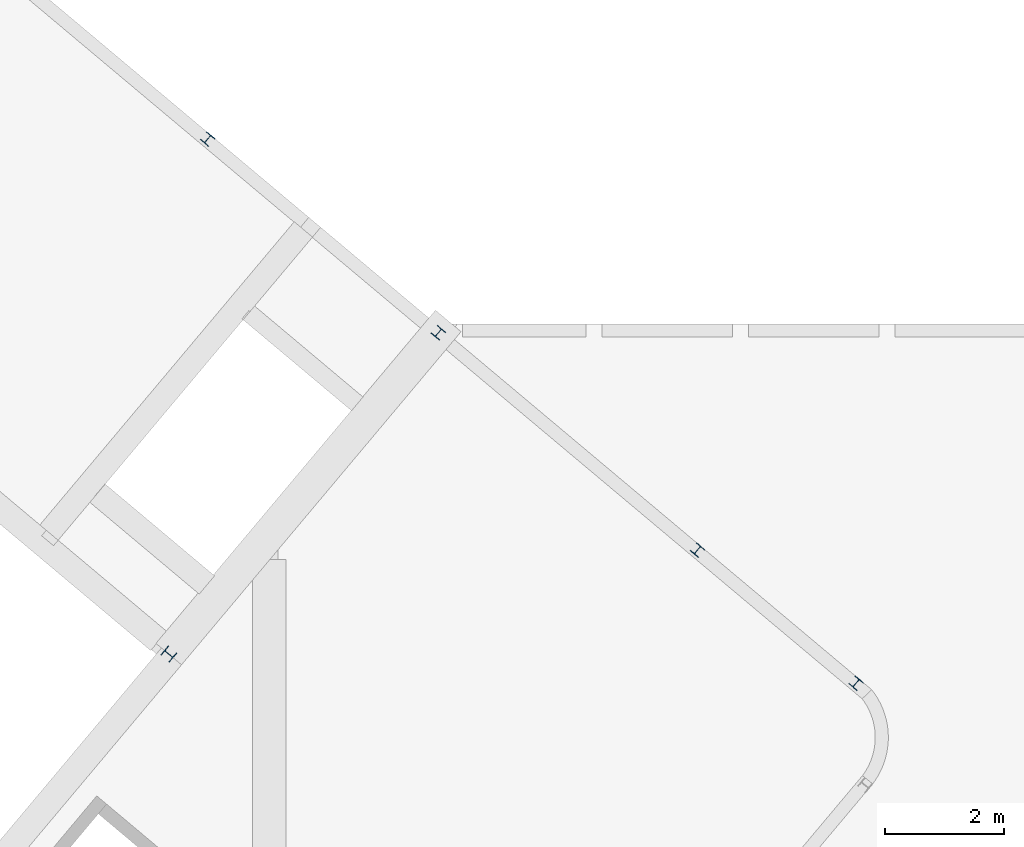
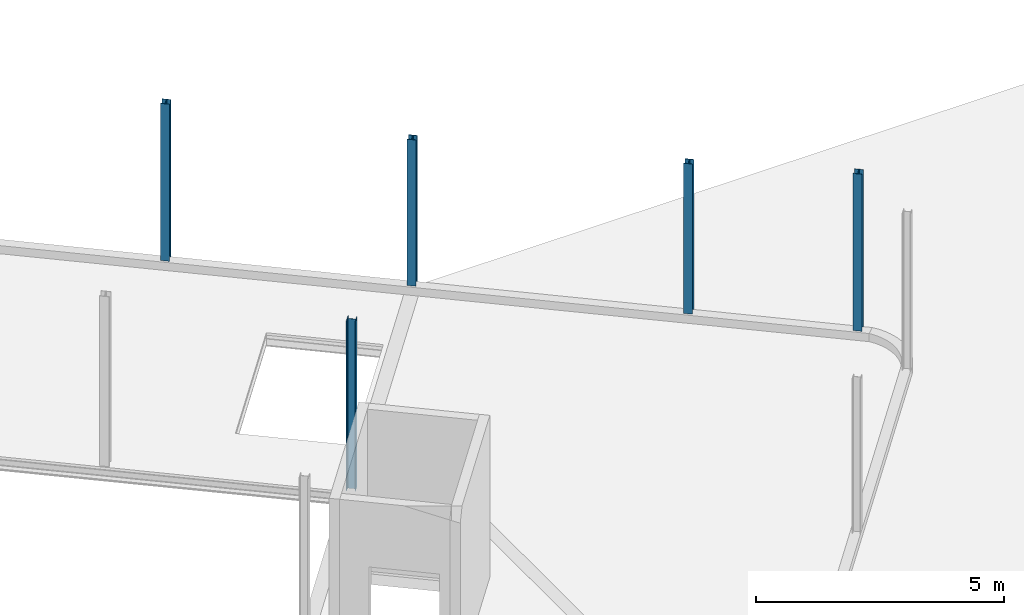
# One storey, part 4 of 11: 5 columns.
"""IFC2X3 building model written with IfcOpenShell, lengths in millimetres."""

import ifcopenshell
import ifcopenshell.guid

model = None  # the IFC model being written
_history = None  # IfcOwnerHistory: only IFC2X3 demands one
_inside = {}  # id of a spatial element -> (the spatial element, [elements in it])
_under = {}  # id of a project, library or spatial element -> (it, [spatial elements below it])
_declared = {}  # id of a project -> (the project, [libraries it declares])
_typed = {}  # id of a type object -> (the type object, [elements of that type])
_made_of = {}  # id of a material, layer set ... -> (it, [elements and type objects made of it])


def new_model(schema):
    """Start an empty IFC model of exactly this schema.

    Asked for "IFC4X3", IfcOpenShell would pick the latest addendum, in which some entities
    have other attributes; the version numbers below select the first issue.
    IFC2X3 requires an IfcOwnerHistory on every rooted entity: one is made here for all.
    """
    global model, _history
    if schema == "IFC4X3":
        model = ifcopenshell.file(schema_version=(4, 3, 0, 0))
    else:
        model = ifcopenshell.file(schema=schema)
    _inside.clear()
    _under.clear()
    _declared.clear()
    _typed.clear()
    _made_of.clear()
    _history = None
    if model.schema == "IFC2X3":
        org = make("IfcOrganization", Name="unknown")
        user = make(
            "IfcPersonAndOrganization",
            ThePerson=make("IfcPerson", FamilyName="unknown"),
            TheOrganization=org,
        )
        app = make(
            "IfcApplication",
            ApplicationDeveloper=org,
            Version="unknown",
            ApplicationFullName="unknown",
            ApplicationIdentifier="unknown",
        )
        _history = make(
            "IfcOwnerHistory",
            OwningUser=user,
            OwningApplication=app,
            ChangeAction="ADDED",
            CreationDate=0,
        )
    return model


def make(cls, **values):
    """One entity of the class cls with the attributes given. An attribute that is None is left unset."""
    return model.create_entity(
        cls, **{name: value for name, value in values.items() if value is not None}
    )


def entity(cls, *values):
    """Any entity or typed value of the class cls, its attributes in the order of the schema. None: left unset."""
    e = model.create_entity(cls)
    for i, value in enumerate(values):
        if value is not None:
            e[i] = value
    return e


def rooted(cls, **values):
    """An entity with a GlobalId (a new one), such as an element, a storey or a relation."""
    return make(cls, GlobalId=ifcopenshell.guid.new(), OwnerHistory=_history, **values)


def si_unit(unit_type, name, prefix=None):
    """IfcSIUnit, for example si_unit("LENGTHUNIT", "METRE", prefix="MILLI")."""
    return make("IfcSIUnit", UnitType=unit_type, Prefix=prefix, Name=name)


def converted_unit(unit_type, name, factor, base, dimensions=None, offset=None):
    """IfcConversionBasedUnit, such as the inch: factor (a typed value) times the base unit."""
    return make(
        "IfcConversionBasedUnit"
        if offset is None
        else "IfcConversionBasedUnitWithOffset",
        ConversionOffset=offset,
        Dimensions=None
        if dimensions is None
        else entity("IfcDimensionalExponents", *dimensions),
        UnitType=unit_type,
        Name=name,
        ConversionFactor=make(
            "IfcMeasureWithUnit", ValueComponent=factor, UnitComponent=base
        ),
    )


def derived_unit(unit_type, elements):
    """IfcDerivedUnit: a product of units, each with its exponent."""
    return make(
        "IfcDerivedUnit",
        Elements=[
            make("IfcDerivedUnitElement", Unit=unit, Exponent=power)
            for unit, power in elements
        ],
        UnitType=unit_type,
    )


def assignment(units):
    """IfcUnitAssignment: the units of a project."""
    return None if units is None else make("IfcUnitAssignment", Units=units)


def point(xyz):
    """IfcCartesianPoint."""
    return None if xyz is None else make("IfcCartesianPoint", Coordinates=xyz)


def direction(xyz):
    """IfcDirection."""
    return None if xyz is None else make("IfcDirection", DirectionRatios=xyz)


def frame(location, z_axis=None, x_axis=None):
    """IfcAxis2Placement3D, a coordinate frame: its origin and axes. An axis left out is left unset."""
    return make(
        "IfcAxis2Placement3D",
        Location=point(location),
        Axis=direction(z_axis),
        RefDirection=direction(x_axis),
    )


def frame_2d(location, x_axis=None):
    """IfcAxis2Placement2D, a coordinate frame in the plane: its origin and x axis."""
    return make(
        "IfcAxis2Placement2D", Location=point(location), RefDirection=direction(x_axis)
    )


def origin():
    """The frame at (0, 0, 0) with its axes left unset."""
    return frame((0.0, 0.0, 0.0))


def place(relative_to, where):
    """IfcLocalPlacement: puts the frame where relative to a parent placement (None: the world)."""
    return make(
        "IfcLocalPlacement", PlacementRelTo=relative_to, RelativePlacement=where
    )


def context(
    kind, dimensions, precision=None, world=None, true_north=None, identifier=None
):
    """IfcGeometricRepresentationContext, for example the 3D "Model" context."""
    return make(
        "IfcGeometricRepresentationContext",
        ContextIdentifier=identifier,
        ContextType=kind,
        CoordinateSpaceDimension=dimensions,
        Precision=precision,
        WorldCoordinateSystem=world,
        TrueNorth=true_north,
    )


def subcontext(parent, identifier, kind, view, scale=None):
    """IfcGeometricRepresentationSubContext, for example "Body" below "Model"."""
    return make(
        "IfcGeometricRepresentationSubContext",
        ContextIdentifier=identifier,
        ContextType=kind,
        ParentContext=parent,
        TargetScale=scale,
        TargetView=view,
    )


def project(units=None, contexts=None):
    """IfcProject with its units and contexts."""
    return rooted(
        "IfcProject",
        Name="project",
        RepresentationContexts=contexts,
        UnitsInContext=assignment(units),
    )


def spatial(cls, under=None, at=None, **own):
    """A site, building, storey or space (cls), placed at a placement, below another one or the project."""
    s = rooted(cls, ObjectPlacement=at, **own)
    if under is not None:
        _under.setdefault(under.id(), (under, []))[1].append(s)
    return s


def profile(cls, at=None, kind="AREA", **sizes):
    """A parametric profile (cls). Its sizes go by their IFC names, for example OverallWidth=200.0."""
    return make(cls, ProfileType=kind, Position=at, **sizes)


def i_section(**sizes):
    """IfcIShapeProfileDef."""
    return profile("IfcIShapeProfileDef", **sizes)


def extrude(swept, where, along, depth):
    """IfcExtrudedAreaSolid: the profile swept, set in the frame where, extruded along a direction by depth."""
    return make(
        "IfcExtrudedAreaSolid",
        SweptArea=swept,
        Position=where,
        ExtrudedDirection=direction(along),
        Depth=depth,
    )


def shape(context_of_items, identifier, shape_type, items):
    """IfcShapeRepresentation: the items that make up one representation, for example the "Body"."""
    return make(
        "IfcShapeRepresentation",
        ContextOfItems=context_of_items,
        RepresentationIdentifier=identifier,
        RepresentationType=shape_type,
        Items=items,
    )


def source(mapping_origin, context_of_items, identifier, shape_type, items):
    """IfcRepresentationMap: a shape defined once, which mapped items show again and again."""
    return make(
        "IfcRepresentationMap",
        MappingOrigin=mapping_origin,
        MappedRepresentation=shape(context_of_items, identifier, shape_type, items),
    )


def transform(
    local_origin,
    x_axis=None,
    y_axis=None,
    z_axis=None,
    scale=None,
    scale2=None,
    scale3=None,
    uniform=True,
):
    """IfcCartesianTransformationOperator3D, or its non-uniform kind. x_axis, y_axis, z_axis: its Axis1, 2, 3."""
    if uniform:
        return make(
            "IfcCartesianTransformationOperator3D",
            Axis1=direction(x_axis),
            Axis2=direction(y_axis),
            LocalOrigin=point(local_origin),
            Scale=scale,
            Axis3=direction(z_axis),
        )
    return make(
        "IfcCartesianTransformationOperator3DnonUniform",
        Axis1=direction(x_axis),
        Axis2=direction(y_axis),
        LocalOrigin=point(local_origin),
        Scale=scale,
        Axis3=direction(z_axis),
        Scale2=scale2,
        Scale3=scale3,
    )


def mapped(mapping_source, mapping_target):
    """IfcMappedItem: shows the shape of a source again, moved by a transform."""
    return make(
        "IfcMappedItem", MappingSource=mapping_source, MappingTarget=mapping_target
    )


def material(Name=None, Category=None):
    """IfcMaterial."""
    return make("IfcMaterial", Name=Name, Category=Category)


def made_of(thing, what):
    """Note that an element or type object is made of a material, layer set ...; save() writes the relation."""
    if what is not None:
        _made_of.setdefault(what.id(), (what, []))[1].append(thing)
    return thing


def type_object(cls, material=None, **own):
    """A type object (cls), such as IfcWallType, which elements share."""
    return made_of(rooted(cls, **own), material)


def type_shapes(of_type, sources):
    """Give a type object the sources (RepresentationMaps) that its elements show as mapped items."""
    of_type.RepresentationMaps = sources


def element(
    cls,
    number,
    at=None,
    inside=None,
    cuts=None,
    type_object=None,
    material=None,
    context=None,
    identifier="Body",
    shape_type=None,
    held_by="IfcProductDefinitionShape",
    body=None,
    shapes=None,
    **own,
):
    """One element of the class cls, such as IfcWall. Its Tag is "e" and its number.

    at: its placement. inside: the storey or other place that contains it. cuts: it is an
    opening in that element (IfcRelVoidsElement). A single representation is given by context,
    identifier, shape_type and body (its items); several are given by shapes. held_by: the class
    of the entity that holds the representations. save() writes the other relations.
    """
    e = rooted(cls, Tag="e%d" % number, ObjectPlacement=at, **own)
    if body is not None:
        shapes = [shape(context, identifier, shape_type, body)]
    if shapes is not None:
        e.Representation = make(held_by, Representations=shapes)
    if inside is not None:
        _inside.setdefault(inside.id(), (inside, []))[1].append(e)
    if cuts is not None:
        rooted(
            "IfcRelVoidsElement", RelatingBuildingElement=cuts, RelatedOpeningElement=e
        )
    if type_object is not None:
        _typed.setdefault(type_object.id(), (type_object, []))[1].append(e)
    return made_of(e, material)


def aggregate(whole, parts):
    """IfcRelAggregates: a whole, such as a stair, and the parts it consists of."""
    return rooted("IfcRelAggregates", RelatingObject=whole, RelatedObjects=parts)


def save(model, path):
    """Write the relations noted so far, then the file.

    IfcRelAggregates (storeys below a building ...), IfcRelContainedInSpatialStructure (elements
    in a storey), IfcRelDefinesByType, IfcRelAssociatesMaterial and IfcRelDeclares: one each for
    every whole, place, type object, material and project.
    """
    for whole, parts in _under.values():
        aggregate(whole, parts)
    for where, things in _inside.values():
        rooted(
            "IfcRelContainedInSpatialStructure",
            RelatedElements=things,
            RelatingStructure=where,
        )
    for kind, things in _typed.values():
        rooted("IfcRelDefinesByType", RelatedObjects=things, RelatingType=kind)
    for what, things in _made_of.values():
        rooted("IfcRelAssociatesMaterial", RelatedObjects=things, RelatingMaterial=what)
    for by, libraries in _declared.values():
        rooted("IfcRelDeclares", RelatingContext=by, RelatedDefinitions=libraries)
    model.write(path)


model = new_model("IFC2X3")

# Units and contexts
model_context = context("Model", 3, precision=0.01, world=origin(), true_north=direction((6.123031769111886e-17, 1.0)))
body_context = subcontext(model_context, "Body", "Model", "MODEL_VIEW")
ifc_project = project(units=[si_unit("LENGTHUNIT", "METRE", prefix="MILLI"), si_unit("AREAUNIT", "SQUARE_METRE"), si_unit("VOLUMEUNIT", "CUBIC_METRE"), derived_unit("MASSDENSITYUNIT", [(si_unit("MASSUNIT", "GRAM", prefix="KILO"), 1), (si_unit("LENGTHUNIT", "METRE"), -3)]), si_unit("MASSUNIT", "GRAM", prefix="KILO"), converted_unit("PLANEANGLEUNIT", "DEGREE", entity("IfcPlaneAngleMeasure", 0.017453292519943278), si_unit("PLANEANGLEUNIT", "RADIAN"), dimensions=[0, 0, 0, 0, 0, 0, 0])], contexts=[model_context])

# Site, building, storey
site_placement = place(None, origin())
site = spatial("IfcSite", under=ifc_project, at=site_placement, Name="Default", CompositionType="ELEMENT")
building_placement = place(site_placement, origin())
building = spatial("IfcBuilding", under=site, at=building_placement, Name="AT constructie", CompositionType="ELEMENT")
storey_placement = place(building_placement, frame((0.0, 0.0, 7728.0)))
storey = spatial("IfcBuildingStorey", under=building, at=storey_placement, Name="02 tweede verdieping", CompositionType="ELEMENT", Elevation=7728.0)

# Columns
ifc_material = material(Name="h2_staal_S355")
column_type_1 = type_object("IfcColumnType", Name="kolom_gen_HEA200", PredefinedType="COLUMN", material=ifc_material)
shared_shape_1 = source(origin(), body_context, "Body", "SweptSolid", [
    extrude(i_section(OverallWidth=199.9999999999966, OverallDepth=190.00000000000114, WebThickness=6.5000000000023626, FlangeThickness=9.999999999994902, FilletRadius=18.0, at=frame_2d((-3.311129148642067e-12, -2.7782220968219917e-12), x_axis=(1.0, 0.0))), frame((39462.76846748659, 37332.628400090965, 7678.0), z_axis=(0.0, 0.0, 1.0), x_axis=(-0.6427876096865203, -0.766044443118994, 0.0)), (0.0, 0.0, 1.0), 4184.999999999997),
])
type_shapes(column_type_1, [shared_shape_1])
column_1_placement = place(storey_placement, frame((0.0, 0.0, -7728.0)))
element("IfcColumn", 1, at=column_1_placement, inside=storey, type_object=column_type_1, material=ifc_material, Name="NLRS_28_SC_TLB_kolom HEA_gen_AT:kolom_gen_HEA200", ObjectType="NLRS_28_SC_TLB_kolom HEA_gen_AT:kolom_gen_HEA200", context=body_context, shape_type="MappedRepresentation", body=[
    mapped(shared_shape_1, transform((0.0, 0.0, 0.0), scale=1.0)),
])
column_type_2 = type_object("IfcColumnType", Name="kolom_gen_HEA180", PredefinedType="COLUMN", material=ifc_material)
shared_shape_2 = source(origin(), body_context, "Body", "SweptSolid", [
    extrude(i_section(OverallWidth=180.0000000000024, OverallDepth=170.99999999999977, WebThickness=5.999999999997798, FlangeThickness=9.500000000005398, FilletRadius=15.000000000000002, at=frame_2d((-2.7853275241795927e-12, 3.311129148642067e-12), x_axis=(1.0, 0.0))), frame((40115.31718590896, 45974.48962439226, 7878.0), z_axis=(0.0, 0.0, 1.0), x_axis=(0.7660444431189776, -0.6427876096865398, 0.0)), (0.0, 0.0, 1.0), 3872.999999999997),
])
type_shapes(column_type_2, [shared_shape_2])
column_2_placement = place(storey_placement, frame((0.0, 0.0, -7728.0)))
element("IfcColumn", 2, at=column_2_placement, inside=storey, type_object=column_type_2, material=ifc_material, Name="NLRS_28_SC_TLB_kolom HEA_gen_AT:kolom_gen_HEA180", ObjectType="NLRS_28_SC_TLB_kolom HEA_gen_AT:kolom_gen_HEA180", context=body_context, shape_type="MappedRepresentation", body=[
    mapped(shared_shape_2, transform((0.0, 0.0, 0.0), scale=1.0)),
])
column_type_3 = type_object("IfcColumnType", Name="kolom_gen_HEA180", PredefinedType="COLUMN", material=ifc_material)
shared_shape_3 = source(origin(), body_context, "Body", "SweptSolid", [
    extrude(i_section(OverallWidth=180.0000000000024, OverallDepth=170.99999999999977, WebThickness=5.999999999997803, FlangeThickness=9.500000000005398, FilletRadius=15.000000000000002, at=frame_2d((2.7853275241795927e-12, -3.311129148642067e-12), x_axis=(1.0, 0.0))), frame((43987.671976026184, 42725.19841253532, 7878.0), z_axis=(0.0, 0.0, 1.0), x_axis=(0.7660444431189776, -0.6427876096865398, 0.0)), (0.0, 0.0, 1.0), 3604.333438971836),
])
type_shapes(column_type_3, [shared_shape_3])
column_3_placement = place(storey_placement, frame((0.0, 0.0, -7728.0)))
element("IfcColumn", 3, at=column_3_placement, inside=storey, type_object=column_type_3, material=ifc_material, Name="NLRS_28_SC_TLB_kolom HEA_gen_AT:kolom_gen_HEA180", ObjectType="NLRS_28_SC_TLB_kolom HEA_gen_AT:kolom_gen_HEA180", context=body_context, shape_type="MappedRepresentation", body=[
    mapped(shared_shape_3, transform((0.0, 0.0, 0.0), scale=1.0)),
])
column_type_4 = type_object("IfcColumnType", Name="kolom_gen_HEA180", PredefinedType="COLUMN", material=ifc_material)
shared_shape_4 = source(origin(), body_context, "Body", "SweptSolid", [
    extrude(i_section(OverallWidth=180.0000000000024, OverallDepth=170.9999999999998, WebThickness=5.999999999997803, FlangeThickness=9.500000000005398, FilletRadius=15.000000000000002, at=frame_2d((9.421796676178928e-12, 2.2453150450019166e-12), x_axis=(1.0, 0.0))), frame((48334.97419072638, 39077.37872756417, 7878.0), z_axis=(0.0, 0.0, 1.0), x_axis=(0.7660444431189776, -0.6427876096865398, 0.0)), (0.0, 0.0, 1.0), 3701.9999999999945),
])
type_shapes(column_type_4, [shared_shape_4])
column_4_placement = place(storey_placement, frame((0.0, 0.0, -7728.0)))
element("IfcColumn", 4, at=column_4_placement, inside=storey, type_object=column_type_4, material=ifc_material, Name="NLRS_28_SC_TLB_kolom HEA_gen_AT:kolom_gen_HEA180", ObjectType="NLRS_28_SC_TLB_kolom HEA_gen_AT:kolom_gen_HEA180", context=body_context, shape_type="MappedRepresentation", body=[
    mapped(shared_shape_4, transform((0.0, 0.0, 0.0), scale=1.0)),
])
column_type_5 = type_object("IfcColumnType", Name="kolom_gen_HEA180", PredefinedType="COLUMN", material=ifc_material)
shared_shape_5 = source(origin(), body_context, "Body", "SweptSolid", [
    extrude(i_section(OverallWidth=179.99999999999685, OverallDepth=171.00000000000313, WebThickness=6.000000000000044, FlangeThickness=9.499999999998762, FilletRadius=15.000000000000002, at=frame_2d((6.636469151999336e-12, 5.5706550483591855e-12), x_axis=(1.0, 0.0))), frame((50996.97863056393, 36843.69178390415, 7878.0), z_axis=(0.0, 0.0, 1.0), x_axis=(0.7660444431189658, -0.642787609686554, 0.0)), (0.0, 0.0, 1.0), 3872.999999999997),
])
type_shapes(column_type_5, [shared_shape_5])
column_5_placement = place(storey_placement, frame((0.0, 0.0, -7728.0)))
element("IfcColumn", 5, at=column_5_placement, inside=storey, type_object=column_type_5, material=ifc_material, Name="NLRS_28_SC_TLB_kolom HEA_gen_AT:kolom_gen_HEA180", ObjectType="NLRS_28_SC_TLB_kolom HEA_gen_AT:kolom_gen_HEA180", context=body_context, shape_type="MappedRepresentation", body=[
    mapped(shared_shape_5, transform((0.0, 0.0, 0.0), scale=1.0)),
])

save(model, "model.ifc")
